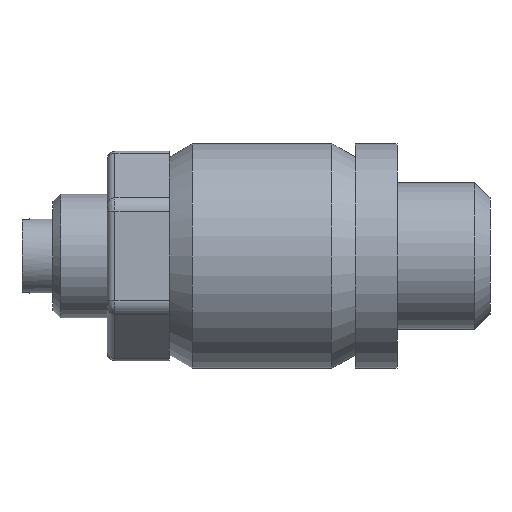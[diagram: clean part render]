
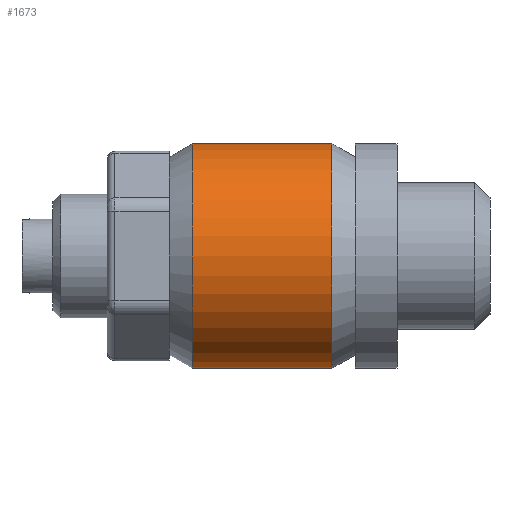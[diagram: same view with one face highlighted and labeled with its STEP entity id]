
A CAD part, left-side view. The second image highlights one B-rep face of the part: STEP entity #1673.
In plain terms, the highlighted cylindrical face has radius 7.25 mm (diameter 14.5 mm), a full revolution.
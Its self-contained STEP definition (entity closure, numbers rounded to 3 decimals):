
#1605=CARTESIAN_POINT('',(0.0,0.,0.0));
#1606=DIRECTION('',(0.0,-1.0,0.0));
#1607=DIRECTION('',(1.0,0.0,0.0));
#1608=AXIS2_PLACEMENT_3D('',#1605,#1606,#1607);
#1609=CYLINDRICAL_SURFACE('',#1608,7.25);
#1610=CARTESIAN_POINT('',(7.25,-4.5,0.0));
#1611=VERTEX_POINT('',#1610);
#1612=CARTESIAN_POINT('',(0.0,-4.5,0.0));
#1613=DIRECTION('',(0.0,-1.0,0.0));
#1614=DIRECTION('',(1.0,0.0,0.0));
#1615=AXIS2_PLACEMENT_3D('',#1612,#1613,#1614);
#1616=CIRCLE('',#1615,7.25);
#1617=EDGE_CURVE('',#1611,#1611,#1616,.T.);
#1618=ORIENTED_EDGE('',*,*,#1617,.F.);
#1619=CARTESIAN_POINT('',(7.25,4.5,0.0));
#1620=VERTEX_POINT('',#1619);
#1621=CARTESIAN_POINT('',(7.25,4.5,0.));
#1622=CARTESIAN_POINT('',(7.25,4.5,0.582));
#1623=CARTESIAN_POINT('',(7.174,4.38,1.193));
#1624=CARTESIAN_POINT('',(6.9,3.915,2.297));
#1625=CARTESIAN_POINT('',(6.704,3.571,2.793));
#1626=CARTESIAN_POINT('',(6.323,2.79,3.574));
#1627=CARTESIAN_POINT('',(6.108,2.295,3.916));
#1628=CARTESIAN_POINT('',(5.785,1.195,4.379));
#1629=CARTESIAN_POINT('',(5.684,0.587,4.5));
#1630=CARTESIAN_POINT('',(5.684,0.0,4.5));
#1631=CARTESIAN_POINT('',(5.684,-0.587,4.5));
#1632=CARTESIAN_POINT('',(5.785,-1.195,4.379));
#1633=CARTESIAN_POINT('',(6.108,-2.295,3.916));
#1634=CARTESIAN_POINT('',(6.323,-2.79,3.574));
#1635=CARTESIAN_POINT('',(6.704,-3.571,2.793));
#1636=CARTESIAN_POINT('',(6.9,-3.915,2.297));
#1637=CARTESIAN_POINT('',(7.174,-4.38,1.193));
#1638=CARTESIAN_POINT('',(7.25,-4.5,0.582));
#1639=CARTESIAN_POINT('',(7.25,-4.5,0.));
#1640=B_SPLINE_CURVE_WITH_KNOTS('',3,(#1621,#1622,#1623,#1624,#1625,#1626,#1627,#1628,#1629,#1630,#1631,#1632,#1633,#1634,#1635,#1636,#1637,#1638,#1639),.UNSPECIFIED.,.F.,.U.,(4,2,2,2,3,2,2,2,4),(2.104,2.279,2.454,2.63,2.806,2.982,3.158,3.332,3.507),.UNSPECIFIED.);
#1641=EDGE_CURVE('',#1620,#1611,#1640,.T.);
#1642=ORIENTED_EDGE('',*,*,#1641,.F.);
#1643=CARTESIAN_POINT('',(0.0,4.5,0.0));
#1644=DIRECTION('',(0.0,-1.0,0.0));
#1645=DIRECTION('',(1.0,0.0,0.0));
#1646=AXIS2_PLACEMENT_3D('',#1643,#1644,#1645);
#1647=CIRCLE('',#1646,7.25);
#1648=EDGE_CURVE('',#1620,#1620,#1647,.T.);
#1649=ORIENTED_EDGE('',*,*,#1648,.T.);
#1650=CARTESIAN_POINT('',(7.25,-4.5,0.));
#1651=CARTESIAN_POINT('',(7.25,-4.5,-0.582));
#1652=CARTESIAN_POINT('',(7.174,-4.38,-1.193));
#1653=CARTESIAN_POINT('',(6.9,-3.915,-2.297));
#1654=CARTESIAN_POINT('',(6.704,-3.571,-2.793));
#1655=CARTESIAN_POINT('',(6.323,-2.79,-3.574));
#1656=CARTESIAN_POINT('',(6.108,-2.295,-3.916));
#1657=CARTESIAN_POINT('',(5.785,-1.195,-4.379));
#1658=CARTESIAN_POINT('',(5.684,-0.587,-4.5));
#1659=CARTESIAN_POINT('',(5.684,0.587,-4.5));
#1660=CARTESIAN_POINT('',(5.785,1.195,-4.379));
#1661=CARTESIAN_POINT('',(6.108,2.295,-3.916));
#1662=CARTESIAN_POINT('',(6.323,2.79,-3.574));
#1663=CARTESIAN_POINT('',(6.704,3.571,-2.793));
#1664=CARTESIAN_POINT('',(6.9,3.915,-2.297));
#1665=CARTESIAN_POINT('',(7.174,4.38,-1.193));
#1666=CARTESIAN_POINT('',(7.25,4.5,-0.582));
#1667=CARTESIAN_POINT('',(7.25,4.5,0.));
#1668=B_SPLINE_CURVE_WITH_KNOTS('',3,(#1650,#1651,#1652,#1653,#1654,#1655,#1656,#1657,#1658,#1659,#1660,#1661,#1662,#1663,#1664,#1665,#1666,#1667),.UNSPECIFIED.,.F.,.U.,(4,2,2,2,2,2,2,2,4),(0.701,0.876,1.051,1.227,1.403,1.579,1.755,1.93,2.104),.UNSPECIFIED.);
#1669=EDGE_CURVE('',#1611,#1620,#1668,.T.);
#1670=ORIENTED_EDGE('',*,*,#1669,.F.);
#1671=EDGE_LOOP('',(#1618,#1642,#1649,#1670));
#1672=FACE_OUTER_BOUND('',#1671,.T.);
#1673=ADVANCED_FACE('',(#1672),#1609,.T.);
